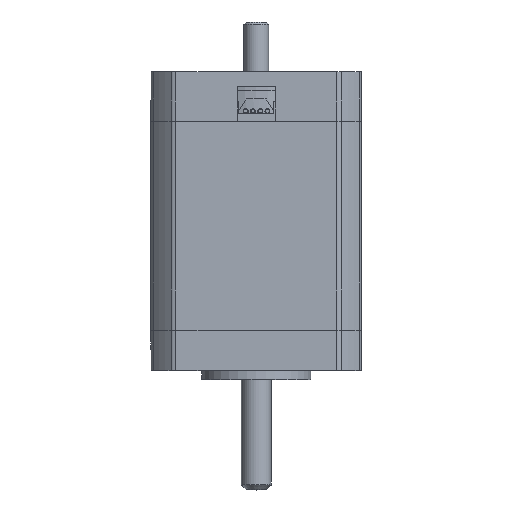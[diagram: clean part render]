
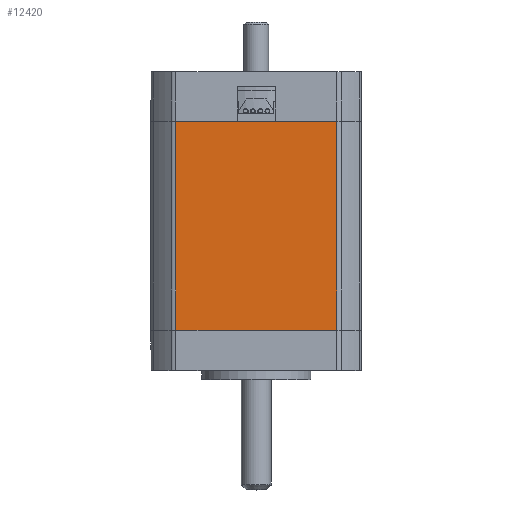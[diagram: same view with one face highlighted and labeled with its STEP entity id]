
A CAD part, top view. The second image highlights one B-rep face of the part: STEP entity #12420.
In plain terms, the highlighted planar face has unit normal (0, 0, 1).
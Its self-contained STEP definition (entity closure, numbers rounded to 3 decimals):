
#1514 = ORIENTED_EDGE ( 'NONE', *, *, #4960, .F. ) ;
#2273 = CARTESIAN_POINT ( 'NONE',  ( 16.155, -9., 21.1 ) ) ;
#2556 = CARTESIAN_POINT ( 'NONE',  ( 16.155, 33., 21.1 ) ) ;
#2568 = DIRECTION ( 'NONE',  ( -1., 0., 0. ) ) ;
#2579 = EDGE_CURVE ( 'NONE', #13464, #11537, #2965, .T. ) ;
#2965 = LINE ( 'NONE', #25003, #11594 ) ;
#4960 = EDGE_CURVE ( 'NONE', #7316, #11537, #19676, .T. ) ;
#5653 = CARTESIAN_POINT ( 'NONE',  ( -16.155, 33., 21.1 ) ) ;
#6198 = VECTOR ( 'NONE', #9861, 1000. ) ;
#7316 = VERTEX_POINT ( 'NONE', #25202 ) ;
#8795 = EDGE_CURVE ( 'NONE', #7316, #10928, #14040, .T. ) ;
#9757 = VECTOR ( 'NONE', #18222, 1000. ) ;
#9861 = DIRECTION ( 'NONE',  ( 0., -1., 0. ) ) ;
#10000 = EDGE_LOOP ( 'NONE', ( #10584, #1514, #22090, #25157 ) ) ;
#10584 = ORIENTED_EDGE ( 'NONE', *, *, #2579, .T. ) ;
#10689 = PLANE ( 'NONE',  #23101 ) ;
#10928 = VERTEX_POINT ( 'NONE', #2273 ) ;
#11427 = DIRECTION ( 'NONE',  ( 0., 1., 0. ) ) ;
#11537 = VERTEX_POINT ( 'NONE', #22956 ) ;
#11594 = VECTOR ( 'NONE', #25382, 1000. ) ;
#12420 = ADVANCED_FACE ( 'NONE', ( #20531 ), #10689, .F. ) ;
#13464 = VERTEX_POINT ( 'NONE', #2556 ) ;
#13807 = LINE ( 'NONE', #21677, #6198 ) ;
#14040 = LINE ( 'NONE', #14175, #9757 ) ;
#14175 = CARTESIAN_POINT ( 'NONE',  ( -1.665, -9., 21.1 ) ) ;
#16720 = CARTESIAN_POINT ( 'NONE',  ( 16.685, 33., 21.1 ) ) ;
#17004 = VECTOR ( 'NONE', #11427, 1000. ) ;
#18222 = DIRECTION ( 'NONE',  ( 1., 0., 0. ) ) ;
#18671 = DIRECTION ( 'NONE',  ( 0., 0., -1. ) ) ;
#19676 = LINE ( 'NONE', #5653, #17004 ) ;
#20531 = FACE_OUTER_BOUND ( 'NONE', #10000, .T. ) ;
#21111 = EDGE_CURVE ( 'NONE', #13464, #10928, #13807, .T. ) ;
#21677 = CARTESIAN_POINT ( 'NONE',  ( 16.155, 33., 21.1 ) ) ;
#22090 = ORIENTED_EDGE ( 'NONE', *, *, #8795, .T. ) ;
#22956 = CARTESIAN_POINT ( 'NONE',  ( -16.155, 33., 21.1 ) ) ;
#23101 = AXIS2_PLACEMENT_3D ( 'NONE', #16720, #18671, #2568 ) ;
#25003 = CARTESIAN_POINT ( 'NONE',  ( 0., 33., 21.1 ) ) ;
#25157 = ORIENTED_EDGE ( 'NONE', *, *, #21111, .F. ) ;
#25202 = CARTESIAN_POINT ( 'NONE',  ( -16.155, -9., 21.1 ) ) ;
#25382 = DIRECTION ( 'NONE',  ( -1., 0., 0. ) ) ;
